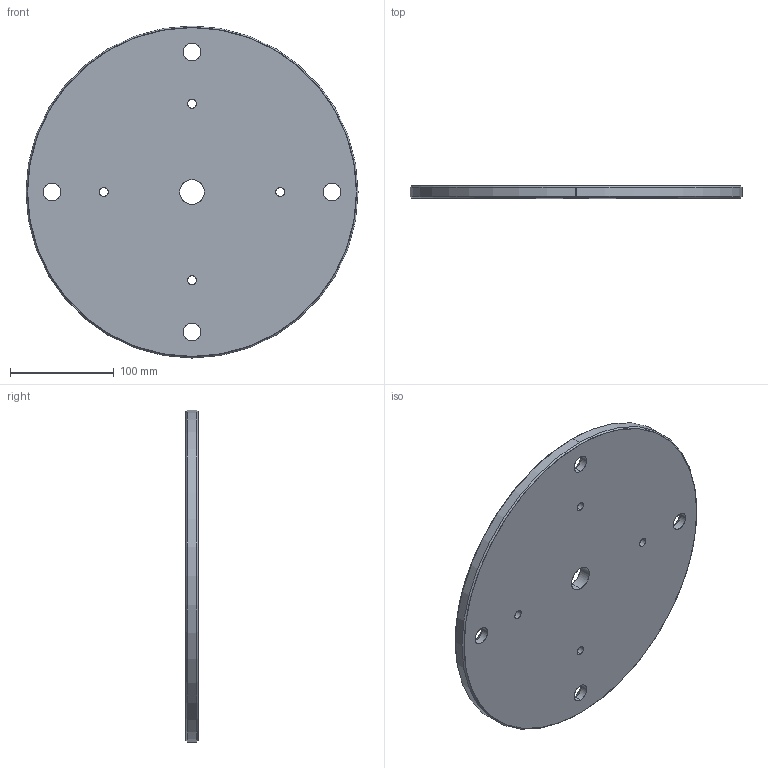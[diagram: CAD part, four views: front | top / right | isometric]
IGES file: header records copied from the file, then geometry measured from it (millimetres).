
Start section: SolidWorks IGES file using analytic representation for surfaces
Global section: file name: C:\Users\James\Desktop\PDM Temp\1.1.1\Surface plate.IGS; native system: SolidWorks 2017; preprocessor: SolidWorks 2017; author: Peter; date: 200624.143817; units: millimetre
Bounding box: 320 x 12 x 320 mm (x, y, z)
Surface area: 172179.8 mm2 (no closed solid volume)
Topology: 0 solids, 0 shells, 42 faces, 864 edges, 864 vertices
Faces by surface type: revolution 40, bspline 2
